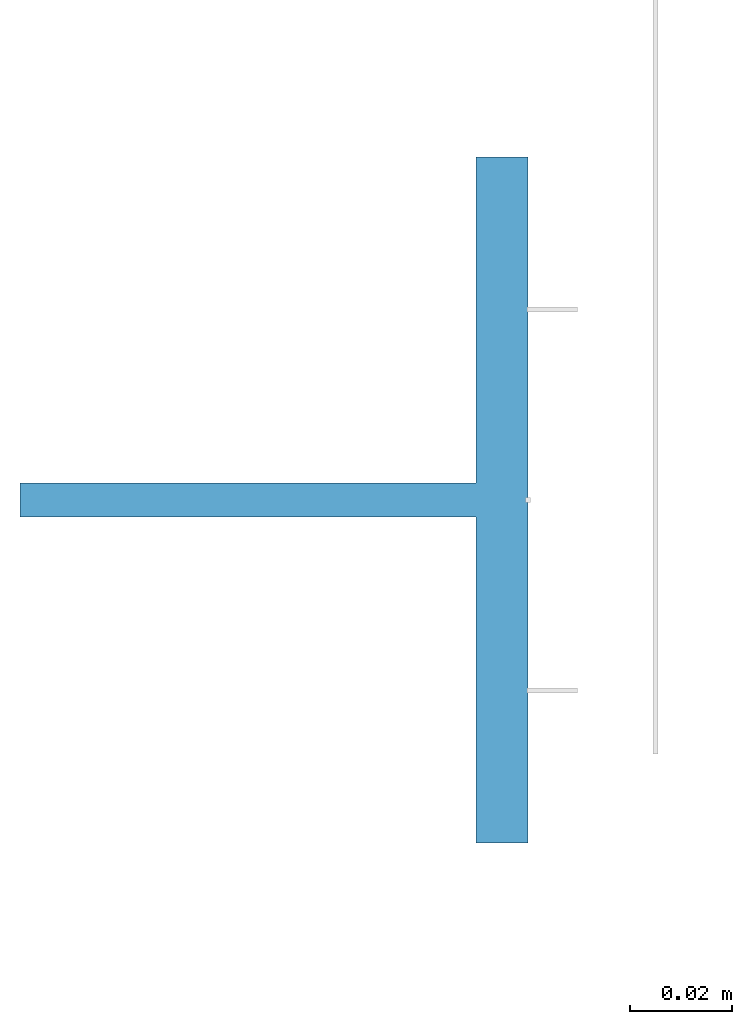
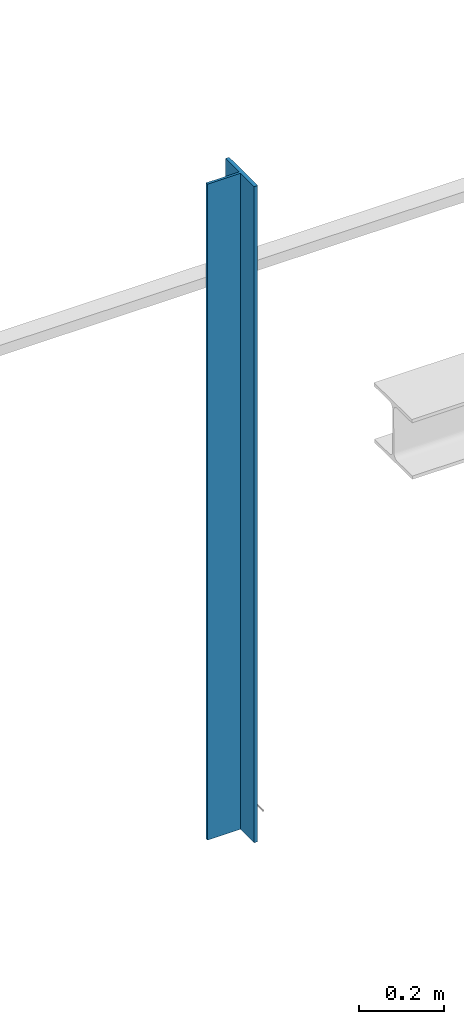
# One storey, part 127 of 186: 1 beam.
"""IFC4X3_ADD2 building model written with IfcOpenShell, lengths in millimetres."""

from ifc_helpers import new_model, si_unit, direction, frame, origin_with_axes, place, context, subcontext, project, spatial, polygons, element, save


model = new_model("IFC4X3_ADD2")

# Units and contexts
model_context = context("Model", 3, precision=1e-05, world=origin_with_axes(), true_north=direction((0.0, 1.0)))
body_context = subcontext(model_context, "Body", "Model", "MODEL_VIEW")
ifc_project = project(units=[si_unit("LENGTHUNIT", "METRE", prefix="MILLI"), si_unit("AREAUNIT", "SQUARE_METRE"), si_unit("VOLUMEUNIT", "CUBIC_METRE"), si_unit("PLANEANGLEUNIT", "RADIAN"), si_unit("TIMEUNIT", "SECOND"), si_unit("MASSUNIT", "GRAM")], contexts=[model_context])

# Site, building, storey
site_placement = place(None, origin_with_axes())
site = spatial("IfcSite", under=ifc_project, at=site_placement, Name="Site", CompositionType="ELEMENT")
building_placement = place(site_placement, origin_with_axes())
building = spatial("IfcBuilding", under=site, at=building_placement, Name="IFC Building Story")
storey_placement = place(building_placement, frame((0.0, 0.0, 4370.0), z_axis=(0.0, 0.0, 1.0), x_axis=(1.0, 0.0, 0.0)))
storey = spatial("IfcBuildingStorey", under=building, at=storey_placement, Name="ETAGE 10 (1)", Elevation=4370.0)

# Beam
beam_placement = place(storey_placement, frame((0.0, 0.0, -4370.0), z_axis=(0.0, 0.0, 1.0), x_axis=(1.0, 0.0, 0.0)))
element("IfcBeam", 1, at=beam_placement, inside=storey, Name="PS6", ObjectType="HALF_IPE270_100", context=body_context, shape_type="Tessellation", body=[
    polygons([(4678.08977737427, 13496.6997253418, 9980.0), (4678.08977737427, 13496.6997253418, 8090.0), (4767.889777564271, 13496.6997253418, 8090.0), (4767.889777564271, 13496.6997253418, 9980.0), (4767.889777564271, 13432.4997253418, 8090.0), (4767.889777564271, 13432.4997253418, 9980.0), (4778.08977737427, 13432.4997253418, 8090.0), (4778.08977737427, 13432.4997253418, 9980.0), (4778.08977737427, 13567.4997253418, 8090.0), (4778.08977737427, 13567.4997253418, 9980.0), (4767.889777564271, 13567.4997253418, 8090.0), (4767.889777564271, 13567.4997253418, 9980.0), (4767.889777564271, 13503.29972534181, 8090.0), (4767.889777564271, 13503.2997253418, 9980.0), (4678.08977737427, 13503.2997253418, 8090.0), (4678.08977737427, 13503.2997253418, 9980.0)], [[[1, 2, 3, 4]], [[4, 3, 5, 6]], [[6, 5, 7, 8]], [[8, 7, 9, 10]], [[10, 9, 11, 12]], [[12, 11, 13, 14]], [[14, 13, 15, 16]], [[16, 15, 2, 1]], [[4, 6, 8]], [[4, 8, 14]], [[14, 16, 1]], [[14, 1, 4]], [[8, 10, 14]], [[10, 12, 14]], [[13, 11, 9]], [[13, 9, 3]], [[3, 2, 15]], [[3, 15, 13]], [[9, 7, 3]], [[7, 5, 3]]]),
])

save(model, "model.ifc")
